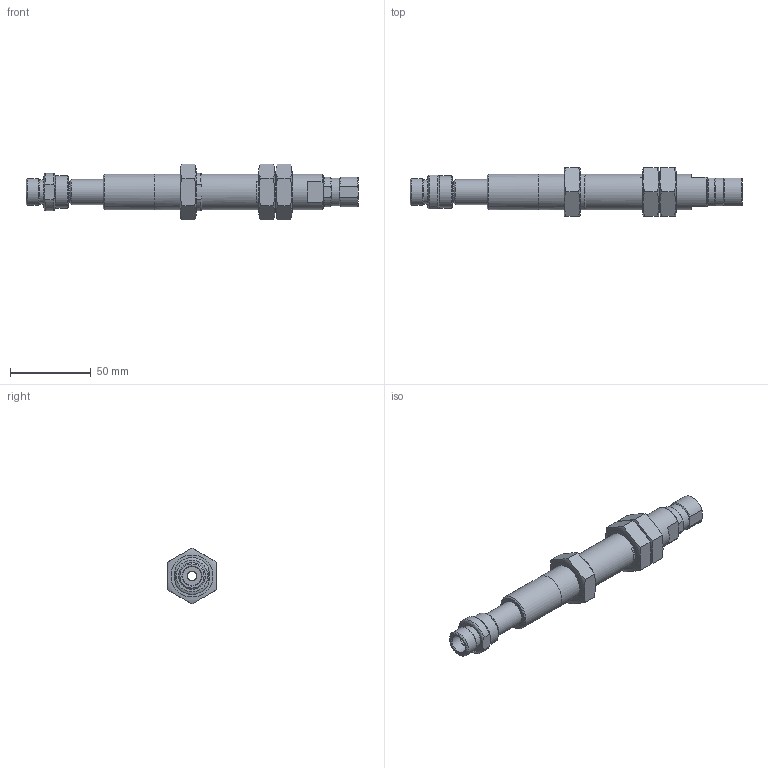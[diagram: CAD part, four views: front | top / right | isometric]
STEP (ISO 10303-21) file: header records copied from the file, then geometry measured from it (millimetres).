
FILE_DESCRIPTION( ( 'Unknown' ), '1' );
FILE_NAME( 'C:/Documents and Settings/Owner/官帕 拳搁/LEVEL SPRING HOMEPAGE/L38 Series/L3850LT/L3850LT.stp', 'Unknown', ( 'Unknown' ), ( 'Unknown' ), 'PSStep 10.0', 'Unknown', ' ' );
FILE_SCHEMA( ( 'AUTOMOTIVE_DESIGN { 1 0 10303 214 1 1 1 1 }' ) );
Length unit declared in the file: millimetre
Products named in the file (7): Assem1; sha; hou; upper; nut; nipple 38; SPACER
Bounding box: 205.5 x 30 x 34.64 mm (x, y, z)
Surface area: 67407.3 mm2 (no closed solid volume)
Topology: 0 solids, 215 shells, 215 faces, 807 edges, 708 vertices
Faces by surface type: plane 80, cylinder 63, cone 52, torus 16, revolution 4
Full cylindrical faces by diameter (mm): 5.5 x2, 8.566 x2, 9.728 x4, 11.445 x4, 11.455 x2, 13 x4, 13.157 x4, 13.16 x2, 13.5 x2, 14.9 x2, 15.5 x4, 15.8 x2, 16.6 x2, 17 x2, 19.7 x2, 20 x2, 22 x5
Entity records: 5348 total; most frequent: CARTESIAN_POINT 1546, DIRECTION 650, ORIENTED_EDGE 328, EDGE_CURVE 328, VERTEX_POINT 328, AXIS2_PLACEMENT_3D 288, CIRCLE 180, FACE_BOUND 168
